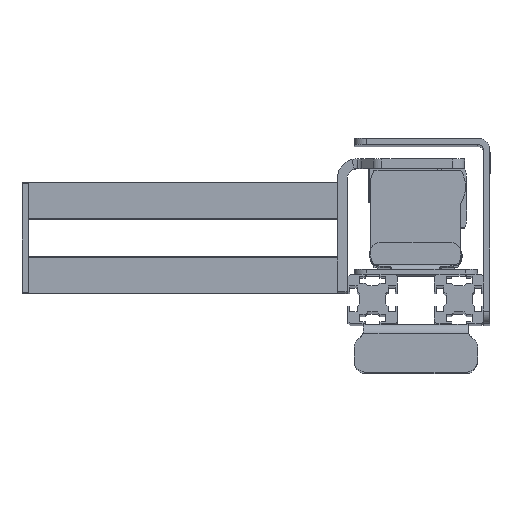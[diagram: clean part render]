
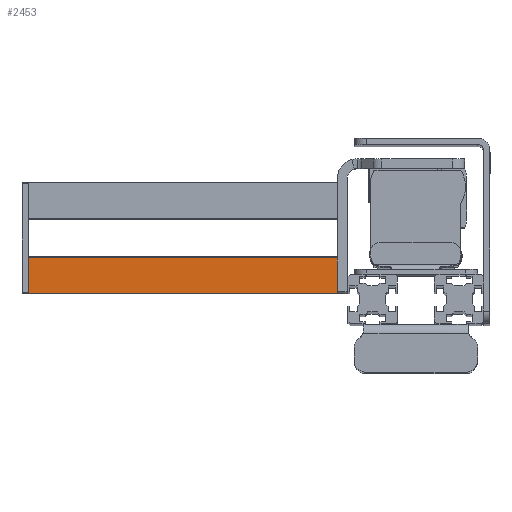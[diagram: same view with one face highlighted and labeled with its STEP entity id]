
A CAD part, top view. The second image highlights one B-rep face of the part: STEP entity #2453.
In plain terms, the highlighted planar face has unit normal (0, 0, 1).
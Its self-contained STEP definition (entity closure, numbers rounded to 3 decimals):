
#1411=CARTESIAN_POINT('',(-313.572,7.048,348.3));
#1412=VERTEX_POINT('',#1411);
#1692=CARTESIAN_POINT('',(-313.572,-21.452,348.3));
#1693=VERTEX_POINT('',#1692);
#1717=CARTESIAN_POINT('',(-313.572,7.048,348.3));
#1718=DIRECTION('',(0.0,-1.0,0.0));
#1719=VECTOR('',#1718,28.5);
#1720=LINE('',#1717,#1719);
#1721=EDGE_CURVE('',#1412,#1693,#1720,.T.);
#1880=CARTESIAN_POINT('',(-313.572,-21.952,348.3));
#1881=VERTEX_POINT('',#1880);
#1889=CARTESIAN_POINT('',(-313.572,-21.452,348.3));
#1890=DIRECTION('',(0.0,-1.0,0.0));
#1891=VECTOR('',#1890,0.5);
#1892=LINE('',#1889,#1891);
#1893=EDGE_CURVE('',#1693,#1881,#1892,.T.);
#2409=CARTESIAN_POINT('',(-63.572,-21.952,348.3));
#2410=VERTEX_POINT('',#2409);
#2418=CARTESIAN_POINT('',(-63.572,-21.952,348.3));
#2419=DIRECTION('',(-1.0,0.0,0.0));
#2420=VECTOR('',#2419,250.0);
#2421=LINE('',#2418,#2420);
#2422=EDGE_CURVE('',#2410,#1881,#2421,.T.);
#2429=CARTESIAN_POINT('',(-188.572,-21.952,348.3));
#2430=DIRECTION('',(0.0,0.0,1.0));
#2431=DIRECTION('',(1.0,0.0,0.0));
#2432=AXIS2_PLACEMENT_3D('',#2429,#2430,#2431);
#2433=PLANE('',#2432);
#2434=CARTESIAN_POINT('',(-63.572,7.048,348.3));
#2435=VERTEX_POINT('',#2434);
#2436=CARTESIAN_POINT('',(-63.572,7.048,348.3));
#2437=DIRECTION('',(0.0,-1.0,0.0));
#2438=VECTOR('',#2437,29.);
#2439=LINE('',#2436,#2438);
#2440=EDGE_CURVE('',#2435,#2410,#2439,.T.);
#2441=ORIENTED_EDGE('',*,*,#2440,.F.);
#2442=CARTESIAN_POINT('',(-63.572,7.048,348.3));
#2443=DIRECTION('',(-1.0,0.0,0.0));
#2444=VECTOR('',#2443,250.0);
#2445=LINE('',#2442,#2444);
#2446=EDGE_CURVE('',#2435,#1412,#2445,.T.);
#2447=ORIENTED_EDGE('',*,*,#2446,.T.);
#2448=ORIENTED_EDGE('',*,*,#1721,.T.);
#2449=ORIENTED_EDGE('',*,*,#1893,.T.);
#2450=ORIENTED_EDGE('',*,*,#2422,.F.);
#2451=EDGE_LOOP('',(#2441,#2447,#2448,#2449,#2450));
#2452=FACE_OUTER_BOUND('',#2451,.T.);
#2453=ADVANCED_FACE('',(#2452),#2433,.T.);
